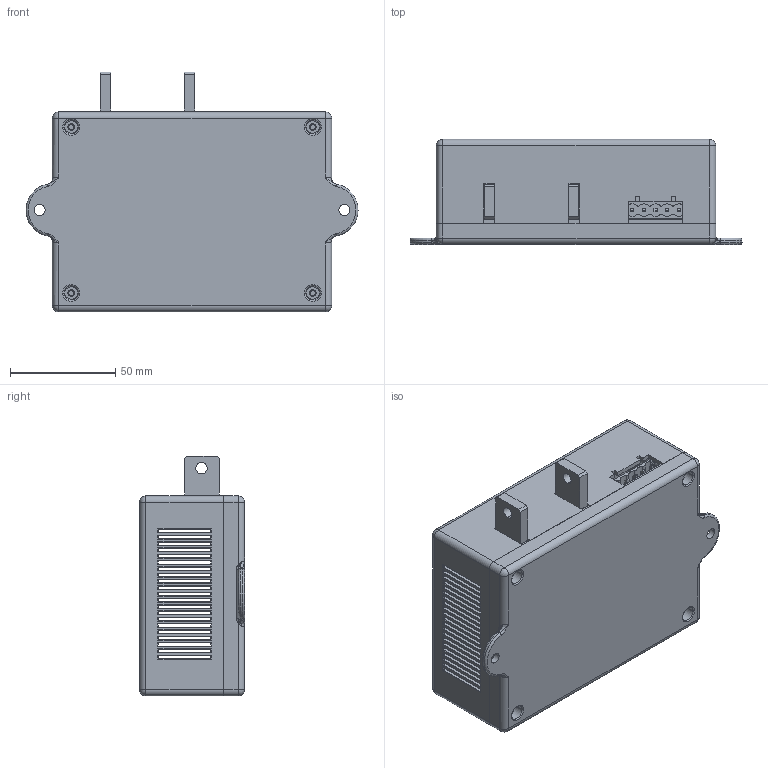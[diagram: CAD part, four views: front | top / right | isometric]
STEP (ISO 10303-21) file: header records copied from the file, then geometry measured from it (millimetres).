
FILE_DESCRIPTION((''),'2;1');
FILE_NAME('ASM0001_ASM','2022-02-08T',('Acer'),(''),'PRO/ENGINEER BY PARAMETRIC TECHNOLOGY CORPORATION, 2015240','PRO/ENGINEER BY PARAMETRIC TECHNOLOGY CORPORATION, 2015240','');
FILE_SCHEMA(('CONFIG_CONTROL_DESIGN'));
Length unit declared in the file: millimetre
Products named in the file (5): DIKE; SHANGKE; TONGPIAN; PAIZHEN; ASM0001_ASM
Assembly tree (5 placements, depth 2):
  ASM0001_ASM
    DIKE
    SHANGKE
    TONGPIAN  x2
    PAIZHEN
Bounding box: 158 x 50 x 114.15 mm (x, y, z)
Volume: 106193.8 mm3; surface area: 104938.8 mm2
Topology: 5 solids, 5 shells, 1023 faces, 2576 edges, 1590 vertices
Faces by surface type: plane 610, cylinder 161, extrusion 101, torus 82, bspline 55, sphere 14
Entity records: 34317 total; most frequent: CARTESIAN_POINT 10256, ORIENTED_EDGE 5104, DIRECTION 4588, EDGE_CURVE 2552, VECTOR 1864, LINE 1763, VERTEX_POINT 1574, AXIS2_PLACEMENT_3D 1362
